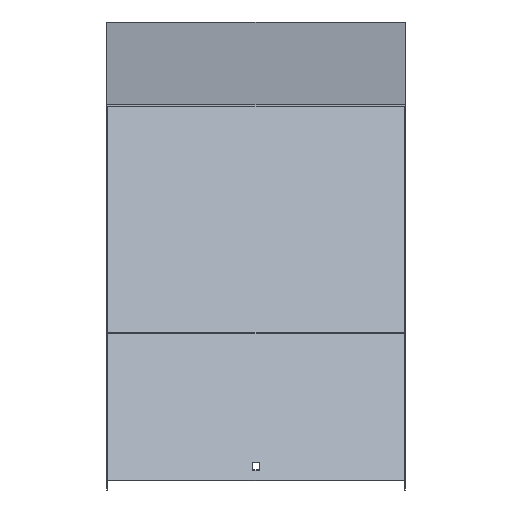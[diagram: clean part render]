
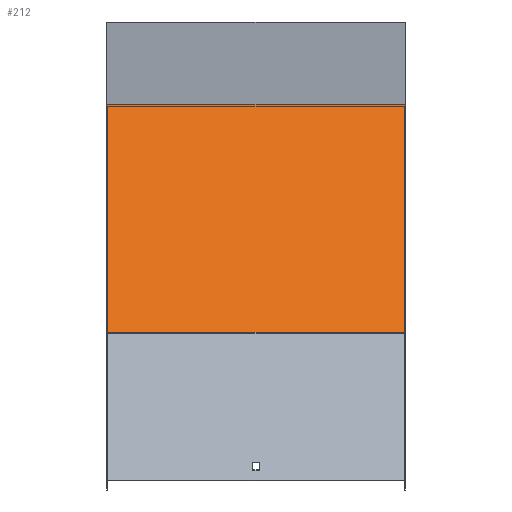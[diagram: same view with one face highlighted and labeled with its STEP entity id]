
A CAD part, top view. The second image highlights one B-rep face of the part: STEP entity #212.
In plain terms, the highlighted planar face has unit normal (0, 0.707, 0.707).
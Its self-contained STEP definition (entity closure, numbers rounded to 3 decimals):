
#33 = VECTOR ( 'NONE', #317, 1000. ) ;
#45 = VERTEX_POINT ( 'NONE', #662 ) ;
#83 = CARTESIAN_POINT ( 'NONE',  ( 151.5, -295.85, 719.701 ) ) ;
#85 = AXIS2_PLACEMENT_3D ( 'NONE', #100, #239, #400 ) ;
#100 = CARTESIAN_POINT ( 'NONE',  ( 151.5, -68.421, 492.272 ) ) ;
#123 = CARTESIAN_POINT ( 'NONE',  ( -151.5, -68.421, 492.272 ) ) ;
#155 = EDGE_CURVE ( 'NONE', #324, #45, #949, .T. ) ;
#168 = FACE_OUTER_BOUND ( 'NONE', #612, .T. ) ;
#200 = VECTOR ( 'NONE', #537, 1000. ) ;
#212 = ADVANCED_FACE ( 'NONE', ( #168 ), #777, .F. ) ;
#219 = VECTOR ( 'NONE', #906, 1000. ) ;
#231 = LINE ( 'NONE', #840, #33 ) ;
#239 = DIRECTION ( 'NONE',  ( 0., -0.707, -0.707 ) ) ;
#294 = CARTESIAN_POINT ( 'NONE',  ( 151.5, -295.85, 719.701 ) ) ;
#317 = DIRECTION ( 'NONE',  ( -1., 0., 0. ) ) ;
#324 = VERTEX_POINT ( 'NONE', #399 ) ;
#350 = ORIENTED_EDGE ( 'NONE', *, *, #155, .T. ) ;
#399 = CARTESIAN_POINT ( 'NONE',  ( -151.5, -64.632, 488.483 ) ) ;
#400 = DIRECTION ( 'NONE',  ( 0., 0.707, -0.707 ) ) ;
#425 = VERTEX_POINT ( 'NONE', #541 ) ;
#449 = CARTESIAN_POINT ( 'NONE',  ( 151.5, -68.421, 492.272 ) ) ;
#459 = EDGE_CURVE ( 'NONE', #710, #45, #606, .T. ) ;
#537 = DIRECTION ( 'NONE',  ( -1., 0., 0. ) ) ;
#541 = CARTESIAN_POINT ( 'NONE',  ( 151.5, -64.632, 488.483 ) ) ;
#606 = LINE ( 'NONE', #83, #200 ) ;
#612 = EDGE_LOOP ( 'NONE', ( #350, #741, #966, #735 ) ) ;
#662 = CARTESIAN_POINT ( 'NONE',  ( -151.5, -295.85, 719.701 ) ) ;
#669 = VECTOR ( 'NONE', #790, 1000. ) ;
#710 = VERTEX_POINT ( 'NONE', #294 ) ;
#735 = ORIENTED_EDGE ( 'NONE', *, *, #910, .T. ) ;
#741 = ORIENTED_EDGE ( 'NONE', *, *, #459, .F. ) ;
#754 = EDGE_CURVE ( 'NONE', #425, #710, #818, .T. ) ;
#777 = PLANE ( 'NONE',  #85 ) ;
#790 = DIRECTION ( 'NONE',  ( 0., -0.707, 0.707 ) ) ;
#818 = LINE ( 'NONE', #449, #219 ) ;
#840 = CARTESIAN_POINT ( 'NONE',  ( 151.5, -64.632, 488.483 ) ) ;
#906 = DIRECTION ( 'NONE',  ( 0., -0.707, 0.707 ) ) ;
#910 = EDGE_CURVE ( 'NONE', #425, #324, #231, .T. ) ;
#949 = LINE ( 'NONE', #123, #669 ) ;
#966 = ORIENTED_EDGE ( 'NONE', *, *, #754, .F. ) ;
